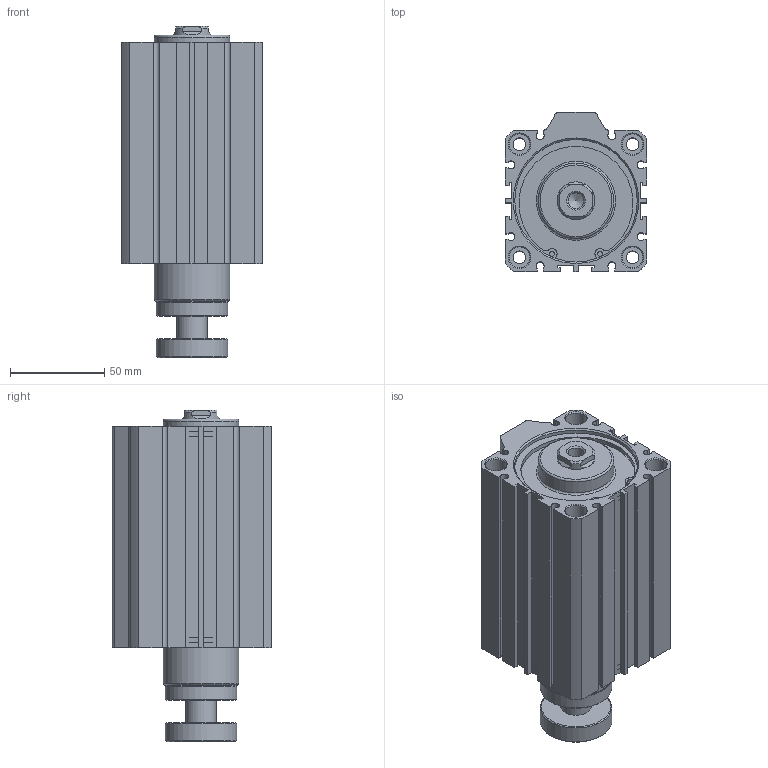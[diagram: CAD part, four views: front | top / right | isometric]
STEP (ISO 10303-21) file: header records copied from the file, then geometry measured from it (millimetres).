
FILE_DESCRIPTION((''),'2;1');
FILE_NAME('I:\3D電子目錄\氣缸\JDAR\JDAR-S\JDAR63-S\JDAR63x75-S.stp','2007-05-05T10:26:47',('662F206'),(''),'Autodesk Inventor 11','Autodesk Inventor 11','');
FILE_SCHEMA(('AUTOMOTIVE_DESIGN { 1 0 10303 214 1 1 1 1 }'));
Length unit declared in the file: millimetre
Products named in the file (3): JDAR63-S; R 形環 65
Assembly tree (3 placements, depth 2):
  JDAR63-S
    JDAR63-S
    R 形環 65  x2
Bounding box: 75 x 84.5 x 175.8 mm (x, y, z)
Volume: 661084.1 mm3; surface area: 91380.7 mm2
Topology: 3 solids, 3 shells, 197 faces, 484 edges, 317 vertices
Faces by surface type: plane 110, cylinder 58, cone 23, bspline 4, torus 2
Full cylindrical faces by diameter (mm): 2.7 x4, 3 x2, 6.8 x4, 11 x8, 16 x1, 20 x1, 38 x2, 40 x2, 65 x4, 68 x2
Entity records: 5335 total; most frequent: CARTESIAN_POINT 1013, DIRECTION 898, ORIENTED_EDGE 788, EDGE_CURVE 394, AXIS2_PLACEMENT_3D 325, VERTEX_POINT 290, EDGE_LOOP 274, VECTOR 248
